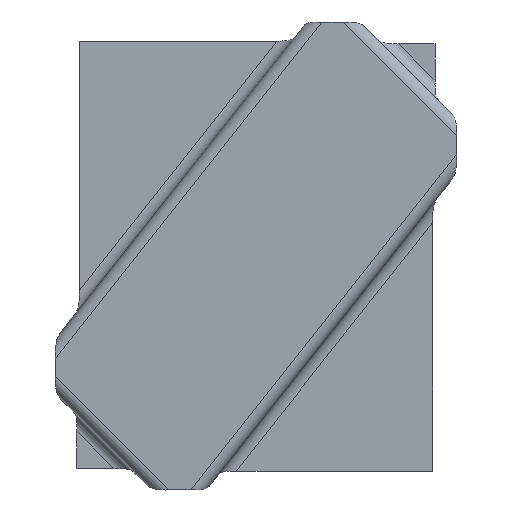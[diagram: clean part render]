
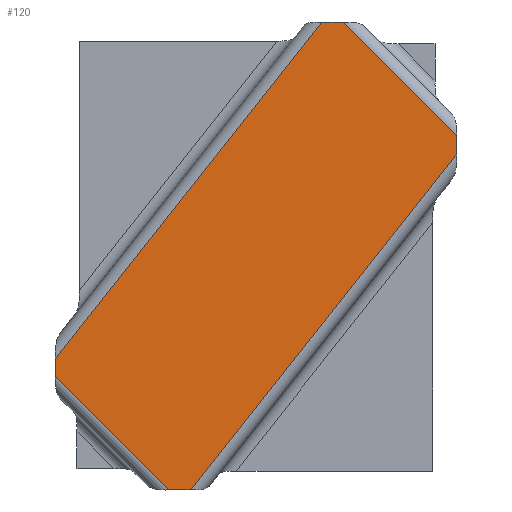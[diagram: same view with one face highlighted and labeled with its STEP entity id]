
A CAD part, top view. The second image highlights one B-rep face of the part: STEP entity #120.
In plain terms, the highlighted planar face has unit normal (0, 0, -1).
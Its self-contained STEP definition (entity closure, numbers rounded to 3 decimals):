
#53=CARTESIAN_POINT('Axis2P3D Location',(-50.88,40.299,65.406)) ;
#59=CARTESIAN_POINT('Control Point',(-50.88,79.768,65.406)) ;
#60=CARTESIAN_POINT('Control Point',(28.745,180.299,65.406)) ;
#61=CARTESIAN_POINT('Vertex',(-50.88,79.768,65.406)) ;
#63=CARTESIAN_POINT('Vertex',(28.745,180.299,65.406)) ;
#66=CARTESIAN_POINT('Line Origine',(9.12,180.299,65.406)) ;
#70=CARTESIAN_POINT('Vertex',(35.294,180.299,65.406)) ;
#74=CARTESIAN_POINT('Control Point',(35.294,180.299,65.406)) ;
#75=CARTESIAN_POINT('Control Point',(69.12,146.473,65.406)) ;
#76=CARTESIAN_POINT('Vertex',(69.12,146.473,65.406)) ;
#79=CARTESIAN_POINT('Line Origine',(69.12,110.299,65.406)) ;
#83=CARTESIAN_POINT('Vertex',(69.12,140.571,65.406)) ;
#87=CARTESIAN_POINT('Control Point',(69.12,140.571,65.406)) ;
#88=CARTESIAN_POINT('Control Point',(-10.3,40.299,65.406)) ;
#89=CARTESIAN_POINT('Vertex',(-10.3,40.299,65.406)) ;
#92=CARTESIAN_POINT('Line Origine',(9.12,40.299,65.406)) ;
#96=CARTESIAN_POINT('Vertex',(-17.054,40.299,65.406)) ;
#100=CARTESIAN_POINT('Control Point',(-50.88,74.125,65.406)) ;
#101=CARTESIAN_POINT('Control Point',(-17.054,40.299,65.406)) ;
#102=CARTESIAN_POINT('Vertex',(-50.88,74.125,65.406)) ;
#105=CARTESIAN_POINT('Line Origine',(-50.88,110.299,65.406)) ;
#54=DIRECTION('Axis2P3D Direction',(0.,0.,1.)) ;
#55=DIRECTION('Axis2P3D XDirection',(1.,0.,0.)) ;
#67=DIRECTION('Vector Direction',(1.,0.,0.)) ;
#80=DIRECTION('Vector Direction',(0.,1.,0.)) ;
#93=DIRECTION('Vector Direction',(1.,0.,0.)) ;
#106=DIRECTION('Vector Direction',(0.,1.,0.)) ;
#56=AXIS2_PLACEMENT_3D('Plane Axis2P3D',#53,#54,#55) ;
#111=ORIENTED_EDGE('',*,*,#65,.T.) ;
#112=ORIENTED_EDGE('',*,*,#72,.T.) ;
#113=ORIENTED_EDGE('',*,*,#78,.T.) ;
#114=ORIENTED_EDGE('',*,*,#85,.T.) ;
#115=ORIENTED_EDGE('',*,*,#91,.T.) ;
#116=ORIENTED_EDGE('',*,*,#98,.T.) ;
#117=ORIENTED_EDGE('',*,*,#104,.F.) ;
#118=ORIENTED_EDGE('',*,*,#109,.T.) ;
#68=VECTOR('Line Direction',#67,1.) ;
#81=VECTOR('Line Direction',#80,1.) ;
#94=VECTOR('Line Direction',#93,1.) ;
#107=VECTOR('Line Direction',#106,1.) ;
#120=ADVANCED_FACE('Offset.1',(#119),#57,.F.) ;
#58=B_SPLINE_CURVE_WITH_KNOTS('',1,(#59,#60),.UNSPECIFIED.,.F.,.U.,(2,2),(-64.122,64.122),.UNSPECIFIED.) ;
#73=B_SPLINE_CURVE_WITH_KNOTS('',1,(#74,#75),.UNSPECIFIED.,.F.,.U.,(2,2),(-23.919,23.919),.UNSPECIFIED.) ;
#86=B_SPLINE_CURVE_WITH_KNOTS('',1,(#87,#88),.UNSPECIFIED.,.F.,.U.,(2,2),(-63.957,63.957),.UNSPECIFIED.) ;
#99=B_SPLINE_CURVE_WITH_KNOTS('',1,(#100,#101),.UNSPECIFIED.,.F.,.U.,(2,2),(-23.919,23.919),.UNSPECIFIED.) ;
#65=EDGE_CURVE('',#62,#64,#58,.T.) ;
#72=EDGE_CURVE('',#64,#71,#69,.T.) ;
#78=EDGE_CURVE('',#71,#77,#73,.T.) ;
#85=EDGE_CURVE('',#77,#84,#82,.F.) ;
#91=EDGE_CURVE('',#84,#90,#86,.T.) ;
#98=EDGE_CURVE('',#90,#97,#95,.F.) ;
#104=EDGE_CURVE('',#103,#97,#99,.T.) ;
#109=EDGE_CURVE('',#103,#62,#108,.T.) ;
#110=EDGE_LOOP('',(#111,#112,#113,#114,#115,#116,#117,#118)) ;
#119=FACE_OUTER_BOUND('',#110,.T.) ;
#69=LINE('Line',#66,#68) ;
#82=LINE('Line',#79,#81) ;
#95=LINE('Line',#92,#94) ;
#108=LINE('Line',#105,#107) ;
#57=PLANE('',#56) ;
#62=VERTEX_POINT('',#61) ;
#64=VERTEX_POINT('',#63) ;
#71=VERTEX_POINT('',#70) ;
#77=VERTEX_POINT('',#76) ;
#84=VERTEX_POINT('',#83) ;
#90=VERTEX_POINT('',#89) ;
#97=VERTEX_POINT('',#96) ;
#103=VERTEX_POINT('',#102) ;
